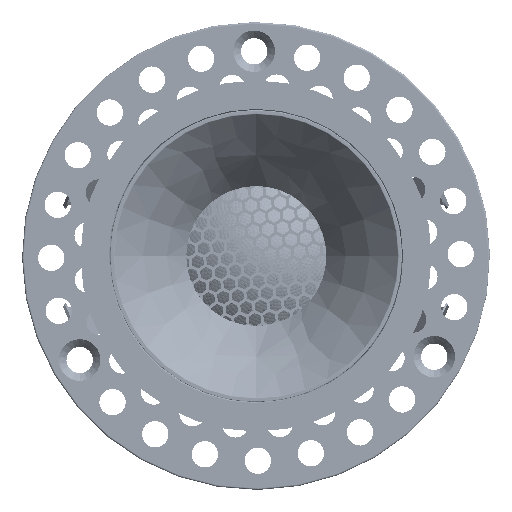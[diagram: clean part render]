
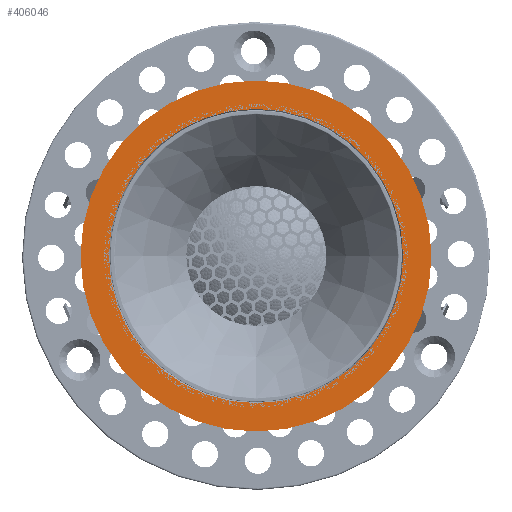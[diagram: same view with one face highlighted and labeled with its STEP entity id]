
A CAD part, front view. The second image highlights one B-rep face of the part: STEP entity #406046.
In plain terms, the highlighted planar face has unit normal (0, -1, 0).
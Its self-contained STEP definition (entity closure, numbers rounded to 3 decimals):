
#9018 = DIRECTION ( 'NONE',  ( 0., 1., 0. ) ) ;
#9125 = AXIS2_PLACEMENT_3D ( 'NONE', #202849, #459457, #34737 ) ;
#20907 = AXIS2_PLACEMENT_3D ( 'NONE', #52773, #268745, #235095 ) ;
#34737 = DIRECTION ( 'NONE',  ( 1., 0., 0. ) ) ;
#36437 = AXIS2_PLACEMENT_3D ( 'NONE', #194443, #275739, #453375 ) ;
#36739 = EDGE_CURVE ( 'NONE', #266880, #412993, #158080, .T. ) ;
#42689 = EDGE_CURVE ( 'NONE', #389281, #113725, #204604, .T. ) ;
#52773 = CARTESIAN_POINT ( 'NONE',  ( 0., -36.794, 0. ) ) ;
#70690 = CARTESIAN_POINT ( 'NONE',  ( 0., -36.794, 30. ) ) ;
#80956 = CARTESIAN_POINT ( 'NONE',  ( 0., -36.794, 0. ) ) ;
#90393 = ORIENTED_EDGE ( 'NONE', *, *, #42689, .T. ) ;
#92502 = FACE_OUTER_BOUND ( 'NONE', #208166, .T. ) ;
#97847 = CARTESIAN_POINT ( 'NONE',  ( 0., -36.794, -25.15 ) ) ;
#113725 = VERTEX_POINT ( 'NONE', #97847 ) ;
#116043 = AXIS2_PLACEMENT_3D ( 'NONE', #434828, #252506, #398898 ) ;
#119312 = DIRECTION ( 'NONE',  ( 0., 0., 1. ) ) ;
#147176 = CARTESIAN_POINT ( 'NONE',  ( 0., -36.794, 25.15 ) ) ;
#149171 = ORIENTED_EDGE ( 'NONE', *, *, #460619, .F. ) ;
#158080 = CIRCLE ( 'NONE', #173083, 30. ) ;
#173083 = AXIS2_PLACEMENT_3D ( 'NONE', #80956, #9018, #119312 ) ;
#194443 = CARTESIAN_POINT ( 'NONE',  ( 0., -36.794, 0. ) ) ;
#200532 = FACE_BOUND ( 'NONE', #457933, .T. ) ;
#202849 = CARTESIAN_POINT ( 'NONE',  ( 25.15, -36.794, 0. ) ) ;
#204604 = CIRCLE ( 'NONE', #36437, 25.15 ) ;
#207201 = ORIENTED_EDGE ( 'NONE', *, *, #395740, .T. ) ;
#208166 = EDGE_LOOP ( 'NONE', ( #472476, #149171 ) ) ;
#235095 = DIRECTION ( 'NONE',  ( 0., 0., 1. ) ) ;
#252506 = DIRECTION ( 'NONE',  ( 0., 1., 0. ) ) ;
#266880 = VERTEX_POINT ( 'NONE', #70690 ) ;
#268745 = DIRECTION ( 'NONE',  ( 0., 1., 0. ) ) ;
#275739 = DIRECTION ( 'NONE',  ( 0., 1., 0. ) ) ;
#284500 = CIRCLE ( 'NONE', #116043, 30. ) ;
#365018 = CARTESIAN_POINT ( 'NONE',  ( 0., -36.794, -30. ) ) ;
#385201 = PLANE ( 'NONE',  #9125 ) ;
#389281 = VERTEX_POINT ( 'NONE', #147176 ) ;
#395740 = EDGE_CURVE ( 'NONE', #113725, #389281, #404231, .T. ) ;
#398898 = DIRECTION ( 'NONE',  ( 0., 0., 1. ) ) ;
#404231 = CIRCLE ( 'NONE', #20907, 25.15 ) ;
#406046 = ADVANCED_FACE ( 'NONE', ( #200532, #92502 ), #385201, .F. ) ;
#412993 = VERTEX_POINT ( 'NONE', #365018 ) ;
#434828 = CARTESIAN_POINT ( 'NONE',  ( 0., -36.794, 0. ) ) ;
#453375 = DIRECTION ( 'NONE',  ( 0., 0., 1. ) ) ;
#457933 = EDGE_LOOP ( 'NONE', ( #90393, #207201 ) ) ;
#459457 = DIRECTION ( 'NONE',  ( 0., 1., 0. ) ) ;
#460619 = EDGE_CURVE ( 'NONE', #412993, #266880, #284500, .T. ) ;
#472476 = ORIENTED_EDGE ( 'NONE', *, *, #36739, .F. ) ;
